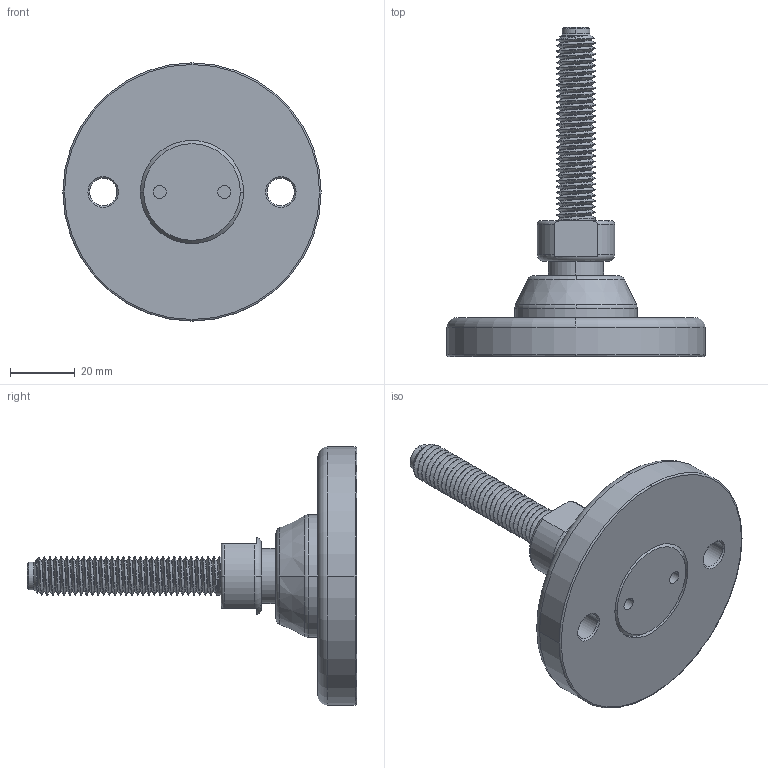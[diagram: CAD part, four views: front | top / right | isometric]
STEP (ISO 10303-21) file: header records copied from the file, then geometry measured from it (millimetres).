
FILE_DESCRIPTION((''),'1');
FILE_NAME('LALAL_M12.step','2024-06-10T15:33:04',(''),(''),'','','');
FILE_SCHEMA(('AUTOMOTIVE_DESIGN { 1 0 10303 214 1 1 1 1 }'));
Products named in the file (6): LALAL M12; LALAL part 02; LALAL O-ring 01; LALAL part 04; LALAL part 05; LALAL part 06
Assembly tree (5 placements, depth 2):
  LALAL M12
    LALAL part 02
    LALAL O-ring 01
    LALAL part 04
    LALAL part 05
    LALAL part 06
Bounding box: 80 x 102 x 80 mm (x, y, z)
Volume: 79737.9 mm3; surface area: 26364.4 mm2
Topology: 5 solids, 5 shells, 166 faces, 426 edges, 275 vertices
Faces by surface type: cylinder 97, plane 23, cone 21, torus 20, bspline 3, sphere 2
Entity records: 125749 total; most frequent: CARTESIAN_POINT 121715, ORIENTED_EDGE 844, DIRECTION 763, EDGE_CURVE 422, AXIS2_PLACEMENT_3D 318, VERTEX_POINT 275, EDGE_LOOP 181, ADVANCED_FACE 166
